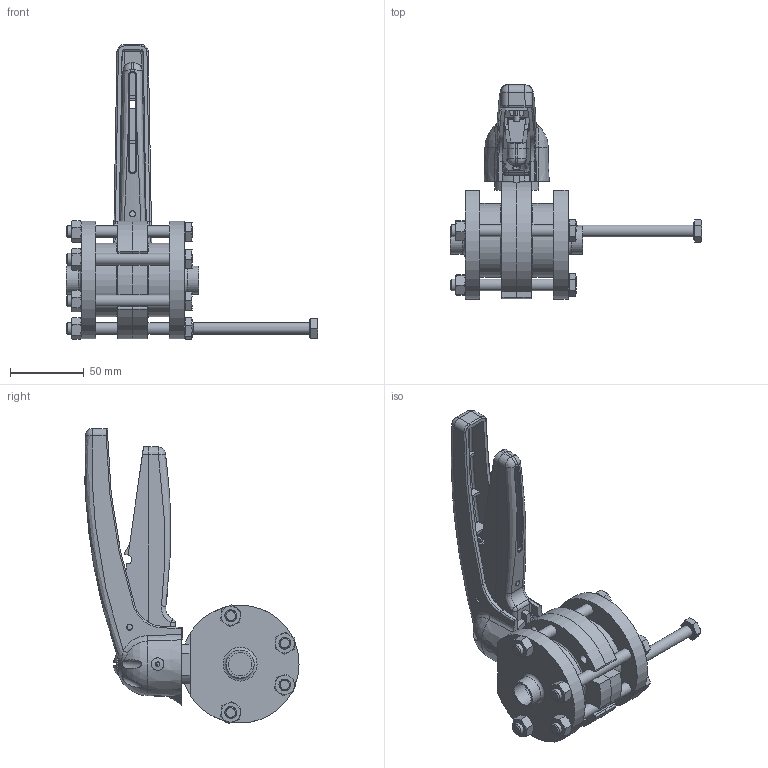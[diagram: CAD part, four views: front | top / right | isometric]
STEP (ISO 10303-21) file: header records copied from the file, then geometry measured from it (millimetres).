
FILE_DESCRIPTION(/* description */ ('VVF VALV.FARF.DN15(19X1.5) WAF4 316 EPDM LEVA 5POS.'),/* implementation_level */ '2;1');
FILE_NAME(/* name */ 'C:\_DED_PWS\ZIGN-L\DB\B\EBA\BEBAC6015BEAA-00^SAGOMA.step',/* time_stamp */ '2022-10-05T08:41:26+02:00',/* author */ (''),/* organization */ (''),/* preprocessor_version */ 'ST-DEVELOPER v18.1',/* originating_system */ 'Autodesk Inventor 2022',/* authorisation */ '');
FILE_SCHEMA (('CONFIG_CONTROL_DESIGN'));
Length unit declared in the file: millimetre
Products named in the file (6): BEBAC6015BEAA; UNI 5588 - M8; UNI 5739 - M8 x 80; Maniglia-5-posizioni-nuova-versione finale 01-2008- 25 - - 65; TWD030025BBA; TPM020015BBA
Assembly tree (14 placements, depth 2):
  BEBAC6015BEAA
    UNI 5588 - M8  x4
    UNI 5739 - M8 x 80  x5
    Maniglia-5-posizioni-nuova-versione finale 01-2008- 25 - - 65
    TPM020015BBA  x2
    TWD030025BBA  x2
Bounding box: 170.6 x 145.39 x 200.35 mm (x, y, z)
Volume: 362623.2 mm3; surface area: 128075 mm2
Topology: 14 solids, 15 shells, 659 faces, 1616 edges, 1012 vertices
Faces by surface type: plane 288, cylinder 138, cone 121, bspline 81, sphere 18, torus 13
Full cylindrical faces by diameter (mm): 4 x3, 6 x2, 6.2 x8, 6.5 x1, 6.647 x4, 8 x5, 8.2 x12, 11.63 x5, 13 x1, 14.5 x1, 16 x2, 19 x2, 50 x2
Entity records: 24025 total; most frequent: CARTESIAN_POINT 12324, ORIENTED_EDGE 2450, DIRECTION 2134, EDGE_CURVE 1225, AXIS2_PLACEMENT_3D 777, VERTEX_POINT 774, LINE 580, VECTOR 580
